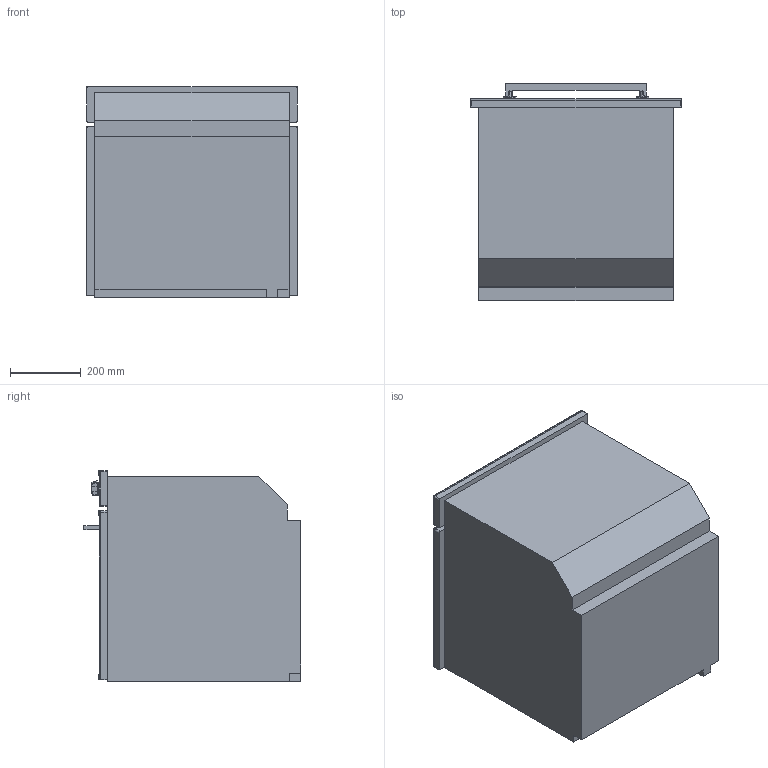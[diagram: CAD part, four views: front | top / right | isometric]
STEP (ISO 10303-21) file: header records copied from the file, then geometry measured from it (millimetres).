
FILE_DESCRIPTION(/* description */ (''),/* implementation_level */ '2;1');
FILE_NAME(/* name */ 'forno sf6400tvn.stp',/* time_stamp */ '2019-04-19T10:21:24+02:00',/* author */ (''),/* organization */ (''),/* preprocessor_version */ 'ST-DEVELOPER v16',/* originating_system */ 'SIEMENS PLM Software NX 11.0',/* authorisation */ '');
FILE_SCHEMA (('AUTOMOTIVE_DESIGN { 1 0 10303 214 3 1 1 1 }'));
Length unit declared in the file: millimetre
Products named in the file (1): gobb332C866273pn
Bounding box: 597 x 615.5 x 596 mm (x, y, z)
Volume: 178010953 mm3; surface area: 3621228.3 mm2
Topology: 22 solids, 22 shells, 238 faces, 558 edges, 370 vertices
Faces by surface type: plane 153, cylinder 48, bspline 18, extrusion 11, torus 8
Full cylindrical faces by diameter (mm): 4.608 x6, 5 x2, 6 x2, 16 x2, 22 x4, 32 x2
Entity records: 7702 total; most frequent: CARTESIAN_POINT 2255, ORIENTED_EDGE 1066, DIRECTION 1021, EDGE_CURVE 533, VERTEX_POINT 364, AXIS2_PLACEMENT_3D 350, VECTOR 321, LINE 310
